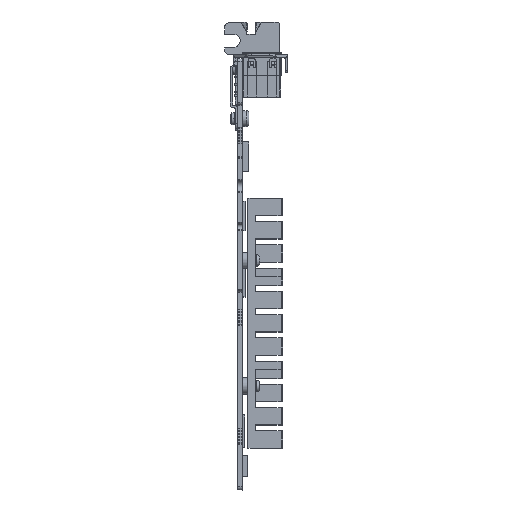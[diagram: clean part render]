
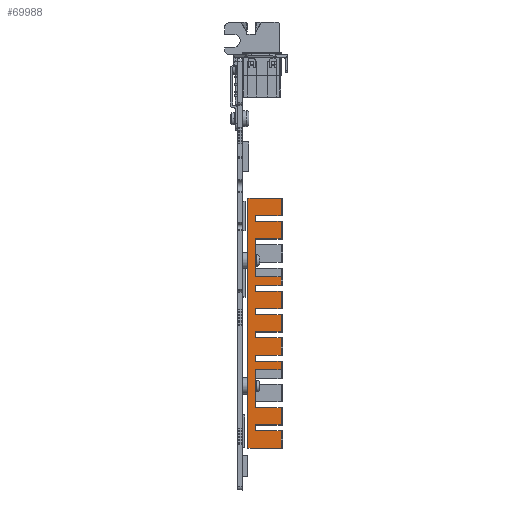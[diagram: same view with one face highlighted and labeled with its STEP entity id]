
A CAD part, top view. The second image highlights one B-rep face of the part: STEP entity #69988.
In plain terms, the highlighted planar face has unit normal (0, 0, 1).
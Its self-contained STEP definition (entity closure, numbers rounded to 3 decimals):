
#51=DIRECTION('',(0.,1.,0.));
#52=VECTOR('',#51,2.);
#53=CARTESIAN_POINT('',(6.1,-43.545,41.175));
#54=LINE('',#53,#52);
#55=DIRECTION('',(0.,1.,0.));
#56=VECTOR('',#55,13.);
#57=CARTESIAN_POINT('',(6.1,-35.545,41.175));
#58=LINE('',#57,#56);
#59=DIRECTION('',(0.,1.,0.));
#60=VECTOR('',#59,2.);
#61=CARTESIAN_POINT('',(6.1,-19.545,41.175));
#62=LINE('',#61,#60);
#63=DIRECTION('',(0.,1.,0.));
#64=VECTOR('',#63,2.);
#65=CARTESIAN_POINT('',(6.1,-11.545,41.175));
#66=LINE('',#65,#64);
#67=DIRECTION('',(0.,1.,0.));
#68=VECTOR('',#67,2.);
#69=CARTESIAN_POINT('',(6.1,-3.545,41.175));
#70=LINE('',#69,#68);
#71=DIRECTION('',(0.,1.,0.));
#72=VECTOR('',#71,2.);
#73=CARTESIAN_POINT('',(6.1,4.455,41.175));
#74=LINE('',#73,#72);
#75=DIRECTION('',(0.,1.,0.));
#76=VECTOR('',#75,13.);
#77=CARTESIAN_POINT('',(6.1,9.455,41.175));
#78=LINE('',#77,#76);
#79=DIRECTION('',(0.,1.,0.));
#80=VECTOR('',#79,2.);
#81=CARTESIAN_POINT('',(6.1,28.455,41.175));
#82=LINE('',#81,#80);
#256=DIRECTION('',(-1.,0.,0.));
#257=VECTOR('',#256,11.4);
#258=CARTESIAN_POINT('',(15.,36.455,41.175));
#259=LINE('',#258,#257);
#402=DIRECTION('',(1.,0.,0.));
#403=VECTOR('',#402,8.9);
#404=CARTESIAN_POINT('',(6.1,30.455,41.175));
#405=LINE('',#404,#403);
#419=DIRECTION('',(0.,1.,0.));
#420=VECTOR('',#419,86.);
#421=CARTESIAN_POINT('',(3.6,-49.545,41.175));
#422=LINE('',#421,#420);
#423=DIRECTION('',(-1.,0.,0.));
#424=VECTOR('',#423,8.9);
#425=CARTESIAN_POINT('',(15.,9.455,41.175));
#426=LINE('',#425,#424);
#452=DIRECTION('',(1.,0.,0.));
#453=VECTOR('',#452,8.9);
#454=CARTESIAN_POINT('',(6.1,6.455,41.175));
#455=LINE('',#454,#453);
#465=DIRECTION('',(0.,1.,0.));
#466=VECTOR('',#465,3.);
#467=CARTESIAN_POINT('',(15.,6.455,41.175));
#468=LINE('',#467,#466);
#469=DIRECTION('',(-1.,0.,0.));
#470=VECTOR('',#469,8.9);
#471=CARTESIAN_POINT('',(15.,4.455,41.175));
#472=LINE('',#471,#470);
#498=DIRECTION('',(1.,0.,0.));
#499=VECTOR('',#498,8.9);
#500=CARTESIAN_POINT('',(6.1,-1.545,41.175));
#501=LINE('',#500,#499);
#511=DIRECTION('',(0.,1.,0.));
#512=VECTOR('',#511,6.);
#513=CARTESIAN_POINT('',(15.,-1.545,41.175));
#514=LINE('',#513,#512);
#515=DIRECTION('',(-1.,0.,0.));
#516=VECTOR('',#515,8.9);
#517=CARTESIAN_POINT('',(15.,-3.545,41.175));
#518=LINE('',#517,#516);
#544=DIRECTION('',(1.,0.,0.));
#545=VECTOR('',#544,8.9);
#546=CARTESIAN_POINT('',(6.1,-9.545,41.175));
#547=LINE('',#546,#545);
#557=DIRECTION('',(0.,1.,0.));
#558=VECTOR('',#557,6.);
#559=CARTESIAN_POINT('',(15.,-9.545,41.175));
#560=LINE('',#559,#558);
#561=DIRECTION('',(-1.,0.,0.));
#562=VECTOR('',#561,8.9);
#563=CARTESIAN_POINT('',(15.,-11.545,41.175));
#564=LINE('',#563,#562);
#590=DIRECTION('',(1.,0.,0.));
#591=VECTOR('',#590,8.9);
#592=CARTESIAN_POINT('',(6.1,-17.545,41.175));
#593=LINE('',#592,#591);
#603=DIRECTION('',(0.,1.,0.));
#604=VECTOR('',#603,6.);
#605=CARTESIAN_POINT('',(15.,-17.545,41.175));
#606=LINE('',#605,#604);
#607=DIRECTION('',(-1.,0.,0.));
#608=VECTOR('',#607,8.9);
#609=CARTESIAN_POINT('',(15.,-19.545,41.175));
#610=LINE('',#609,#608);
#636=DIRECTION('',(1.,0.,0.));
#637=VECTOR('',#636,8.9);
#638=CARTESIAN_POINT('',(6.1,-22.545,41.175));
#639=LINE('',#638,#637);
#649=DIRECTION('',(0.,1.,0.));
#650=VECTOR('',#649,3.);
#651=CARTESIAN_POINT('',(15.,-22.545,41.175));
#652=LINE('',#651,#650);
#653=DIRECTION('',(-1.,0.,0.));
#654=VECTOR('',#653,8.9);
#655=CARTESIAN_POINT('',(15.,-35.545,41.175));
#656=LINE('',#655,#654);
#682=DIRECTION('',(1.,0.,0.));
#683=VECTOR('',#682,8.9);
#684=CARTESIAN_POINT('',(6.1,-41.545,41.175));
#685=LINE('',#684,#683);
#695=DIRECTION('',(0.,1.,0.));
#696=VECTOR('',#695,6.);
#697=CARTESIAN_POINT('',(15.,-41.545,41.175));
#698=LINE('',#697,#696);
#699=DIRECTION('',(-1.,0.,0.));
#700=VECTOR('',#699,8.9);
#701=CARTESIAN_POINT('',(15.,-43.545,41.175));
#702=LINE('',#701,#700);
#728=DIRECTION('',(1.,0.,0.));
#729=VECTOR('',#728,11.4);
#730=CARTESIAN_POINT('',(3.6,-49.545,41.175));
#731=LINE('',#730,#729);
#871=DIRECTION('',(0.,1.,0.));
#872=VECTOR('',#871,6.);
#873=CARTESIAN_POINT('',(15.,-49.545,41.175));
#874=LINE('',#873,#872);
#45297=DIRECTION('',(0.,1.,0.));
#45298=VECTOR('',#45297,6.);
#45299=CARTESIAN_POINT('',(15.,30.455,41.175));
#45300=LINE('',#45299,#45298);
#45305=DIRECTION('',(-1.,0.,0.));
#45306=VECTOR('',#45305,8.9);
#45307=CARTESIAN_POINT('',(15.,28.455,41.175));
#45308=LINE('',#45307,#45306);
#45334=DIRECTION('',(1.,0.,0.));
#45335=VECTOR('',#45334,8.9);
#45336=CARTESIAN_POINT('',(6.1,22.455,41.175));
#45337=LINE('',#45336,#45335);
#45347=DIRECTION('',(0.,1.,0.));
#45348=VECTOR('',#45347,6.);
#45349=CARTESIAN_POINT('',(15.,22.455,41.175));
#45350=LINE('',#45349,#45348);
#63731=CARTESIAN_POINT('',(3.6,-49.545,41.175));
#63732=CARTESIAN_POINT('',(3.6,36.455,41.175));
#63733=VERTEX_POINT('',#63731);
#63734=VERTEX_POINT('',#63732);
#63739=CARTESIAN_POINT('',(6.1,9.455,41.175));
#63740=CARTESIAN_POINT('',(6.1,22.455,41.175));
#63741=VERTEX_POINT('',#63739);
#63742=VERTEX_POINT('',#63740);
#63743=CARTESIAN_POINT('',(15.,9.455,41.175));
#63744=VERTEX_POINT('',#63743);
#63745=CARTESIAN_POINT('',(6.1,6.455,41.175));
#63746=CARTESIAN_POINT('',(15.,6.455,41.175));
#63747=VERTEX_POINT('',#63745);
#63748=VERTEX_POINT('',#63746);
#63749=CARTESIAN_POINT('',(6.1,4.455,41.175));
#63750=VERTEX_POINT('',#63749);
#63751=CARTESIAN_POINT('',(15.,4.455,41.175));
#63752=VERTEX_POINT('',#63751);
#63753=CARTESIAN_POINT('',(6.1,-1.545,41.175));
#63754=CARTESIAN_POINT('',(15.,-1.545,41.175));
#63755=VERTEX_POINT('',#63753);
#63756=VERTEX_POINT('',#63754);
#63757=CARTESIAN_POINT('',(6.1,-3.545,41.175));
#63758=VERTEX_POINT('',#63757);
#63759=CARTESIAN_POINT('',(15.,-3.545,41.175));
#63760=VERTEX_POINT('',#63759);
#63761=CARTESIAN_POINT('',(6.1,-9.545,41.175));
#63762=CARTESIAN_POINT('',(15.,-9.545,41.175));
#63763=VERTEX_POINT('',#63761);
#63764=VERTEX_POINT('',#63762);
#63765=CARTESIAN_POINT('',(6.1,-11.545,41.175));
#63766=VERTEX_POINT('',#63765);
#63767=CARTESIAN_POINT('',(15.,-11.545,41.175));
#63768=VERTEX_POINT('',#63767);
#63769=CARTESIAN_POINT('',(6.1,-17.545,41.175));
#63770=CARTESIAN_POINT('',(15.,-17.545,41.175));
#63771=VERTEX_POINT('',#63769);
#63772=VERTEX_POINT('',#63770);
#63773=CARTESIAN_POINT('',(6.1,-19.545,41.175));
#63774=VERTEX_POINT('',#63773);
#63775=CARTESIAN_POINT('',(15.,-19.545,41.175));
#63776=VERTEX_POINT('',#63775);
#63777=CARTESIAN_POINT('',(6.1,-22.545,41.175));
#63778=CARTESIAN_POINT('',(15.,-22.545,41.175));
#63779=VERTEX_POINT('',#63777);
#63780=VERTEX_POINT('',#63778);
#63781=CARTESIAN_POINT('',(6.1,-35.545,41.175));
#63782=VERTEX_POINT('',#63781);
#63783=CARTESIAN_POINT('',(15.,-35.545,41.175));
#63784=VERTEX_POINT('',#63783);
#63785=CARTESIAN_POINT('',(6.1,-41.545,41.175));
#63786=CARTESIAN_POINT('',(15.,-41.545,41.175));
#63787=VERTEX_POINT('',#63785);
#63788=VERTEX_POINT('',#63786);
#63789=CARTESIAN_POINT('',(6.1,-43.545,41.175));
#63790=VERTEX_POINT('',#63789);
#63791=CARTESIAN_POINT('',(15.,-43.545,41.175));
#63792=VERTEX_POINT('',#63791);
#63793=CARTESIAN_POINT('',(15.,-49.545,41.175));
#63794=VERTEX_POINT('',#63793);
#63795=CARTESIAN_POINT('',(15.,36.455,41.175));
#63796=VERTEX_POINT('',#63795);
#63797=CARTESIAN_POINT('',(6.1,30.455,41.175));
#63798=CARTESIAN_POINT('',(15.,30.455,41.175));
#63799=VERTEX_POINT('',#63797);
#63800=VERTEX_POINT('',#63798);
#63801=CARTESIAN_POINT('',(6.1,28.455,41.175));
#63802=VERTEX_POINT('',#63801);
#63803=CARTESIAN_POINT('',(15.,28.455,41.175));
#63804=VERTEX_POINT('',#63803);
#63805=CARTESIAN_POINT('',(15.,22.455,41.175));
#63806=VERTEX_POINT('',#63805);
#69919=CARTESIAN_POINT('',(9.3,-6.545,41.175));
#69920=DIRECTION('',(0.,0.,1.));
#69921=DIRECTION('',(0.,-1.,0.));
#69922=AXIS2_PLACEMENT_3D('',#69919,#69920,#69921);
#69923=PLANE('',#69922);
#69924=ORIENTED_EDGE('',*,*,#68317,.F.);
#69926=ORIENTED_EDGE('',*,*,#69925,.F.);
#69928=ORIENTED_EDGE('',*,*,#69927,.F.);
#69930=ORIENTED_EDGE('',*,*,#69929,.F.);
#69931=ORIENTED_EDGE('',*,*,#68309,.F.);
#69933=ORIENTED_EDGE('',*,*,#69932,.F.);
#69935=ORIENTED_EDGE('',*,*,#69934,.F.);
#69937=ORIENTED_EDGE('',*,*,#69936,.F.);
#69938=ORIENTED_EDGE('',*,*,#68301,.F.);
#69940=ORIENTED_EDGE('',*,*,#69939,.F.);
#69942=ORIENTED_EDGE('',*,*,#69941,.F.);
#69944=ORIENTED_EDGE('',*,*,#69943,.F.);
#69945=ORIENTED_EDGE('',*,*,#68293,.F.);
#69947=ORIENTED_EDGE('',*,*,#69946,.F.);
#69949=ORIENTED_EDGE('',*,*,#69948,.F.);
#69951=ORIENTED_EDGE('',*,*,#69950,.F.);
#69952=ORIENTED_EDGE('',*,*,#68285,.F.);
#69954=ORIENTED_EDGE('',*,*,#69953,.F.);
#69956=ORIENTED_EDGE('',*,*,#69955,.F.);
#69958=ORIENTED_EDGE('',*,*,#69957,.F.);
#69959=ORIENTED_EDGE('',*,*,#68277,.F.);
#69961=ORIENTED_EDGE('',*,*,#69960,.F.);
#69963=ORIENTED_EDGE('',*,*,#69962,.F.);
#69965=ORIENTED_EDGE('',*,*,#69964,.F.);
#69966=ORIENTED_EDGE('',*,*,#68269,.F.);
#69968=ORIENTED_EDGE('',*,*,#69967,.F.);
#69970=ORIENTED_EDGE('',*,*,#69969,.F.);
#69972=ORIENTED_EDGE('',*,*,#69971,.F.);
#69974=ORIENTED_EDGE('',*,*,#69973,.T.);
#69975=ORIENTED_EDGE('',*,*,#69789,.F.);
#69977=ORIENTED_EDGE('',*,*,#69976,.F.);
#69978=ORIENTED_EDGE('',*,*,#69910,.F.);
#69979=ORIENTED_EDGE('',*,*,#68325,.F.);
#69981=ORIENTED_EDGE('',*,*,#69980,.F.);
#69983=ORIENTED_EDGE('',*,*,#69982,.F.);
#69985=ORIENTED_EDGE('',*,*,#69984,.F.);
#69986=EDGE_LOOP('',(#69924,#69926,#69928,#69930,#69931,#69933,#69935,#69937,
#69938,#69940,#69942,#69944,#69945,#69947,#69949,#69951,#69952,#69954,#69956,
#69958,#69959,#69961,#69963,#69965,#69966,#69968,#69970,#69972,#69974,#69975,
#69977,#69978,#69979,#69981,#69983,#69985));
#69987=FACE_OUTER_BOUND('',#69986,.F.);
#69988=ADVANCED_FACE('',(#69987),#69923,.T.);
#68269=EDGE_CURVE('',#63790,#63787,#54,.T.);
#68277=EDGE_CURVE('',#63782,#63779,#58,.T.);
#68285=EDGE_CURVE('',#63774,#63771,#62,.T.);
#68293=EDGE_CURVE('',#63766,#63763,#66,.T.);
#68301=EDGE_CURVE('',#63758,#63755,#70,.T.);
#68309=EDGE_CURVE('',#63750,#63747,#74,.T.);
#68317=EDGE_CURVE('',#63741,#63742,#78,.T.);
#68325=EDGE_CURVE('',#63802,#63799,#82,.T.);
#69789=EDGE_CURVE('',#63796,#63734,#259,.T.);
#69910=EDGE_CURVE('',#63799,#63800,#405,.T.);
#69925=EDGE_CURVE('',#63744,#63741,#426,.T.);
#69927=EDGE_CURVE('',#63748,#63744,#468,.T.);
#69929=EDGE_CURVE('',#63747,#63748,#455,.T.);
#69932=EDGE_CURVE('',#63752,#63750,#472,.T.);
#69934=EDGE_CURVE('',#63756,#63752,#514,.T.);
#69936=EDGE_CURVE('',#63755,#63756,#501,.T.);
#69939=EDGE_CURVE('',#63760,#63758,#518,.T.);
#69941=EDGE_CURVE('',#63764,#63760,#560,.T.);
#69943=EDGE_CURVE('',#63763,#63764,#547,.T.);
#69946=EDGE_CURVE('',#63768,#63766,#564,.T.);
#69948=EDGE_CURVE('',#63772,#63768,#606,.T.);
#69950=EDGE_CURVE('',#63771,#63772,#593,.T.);
#69953=EDGE_CURVE('',#63776,#63774,#610,.T.);
#69955=EDGE_CURVE('',#63780,#63776,#652,.T.);
#69957=EDGE_CURVE('',#63779,#63780,#639,.T.);
#69960=EDGE_CURVE('',#63784,#63782,#656,.T.);
#69962=EDGE_CURVE('',#63788,#63784,#698,.T.);
#69964=EDGE_CURVE('',#63787,#63788,#685,.T.);
#69967=EDGE_CURVE('',#63792,#63790,#702,.T.);
#69969=EDGE_CURVE('',#63794,#63792,#874,.T.);
#69971=EDGE_CURVE('',#63733,#63794,#731,.T.);
#69973=EDGE_CURVE('',#63733,#63734,#422,.T.);
#69976=EDGE_CURVE('',#63800,#63796,#45300,.T.);
#69980=EDGE_CURVE('',#63804,#63802,#45308,.T.);
#69982=EDGE_CURVE('',#63806,#63804,#45350,.T.);
#69984=EDGE_CURVE('',#63742,#63806,#45337,.T.);
